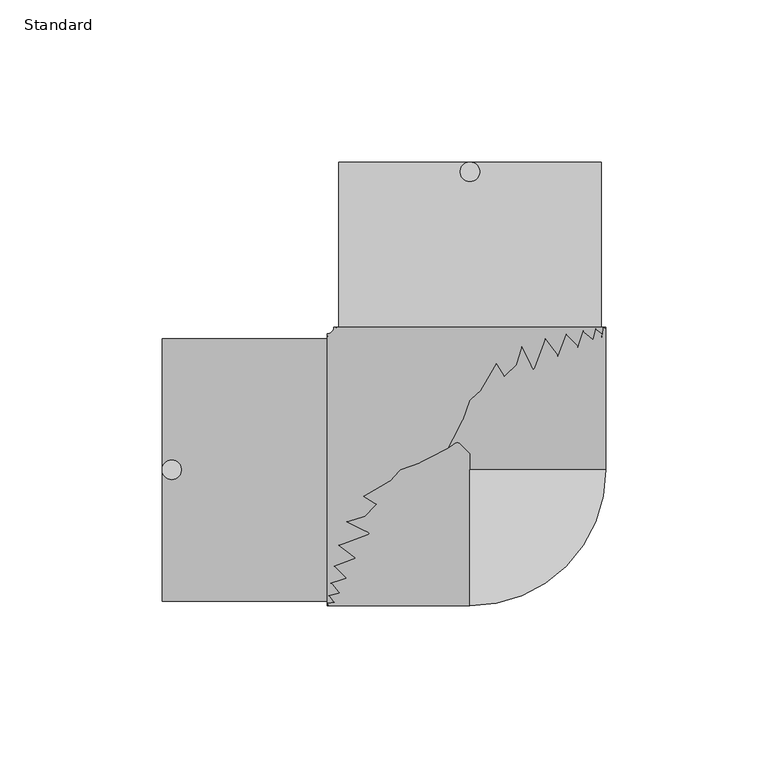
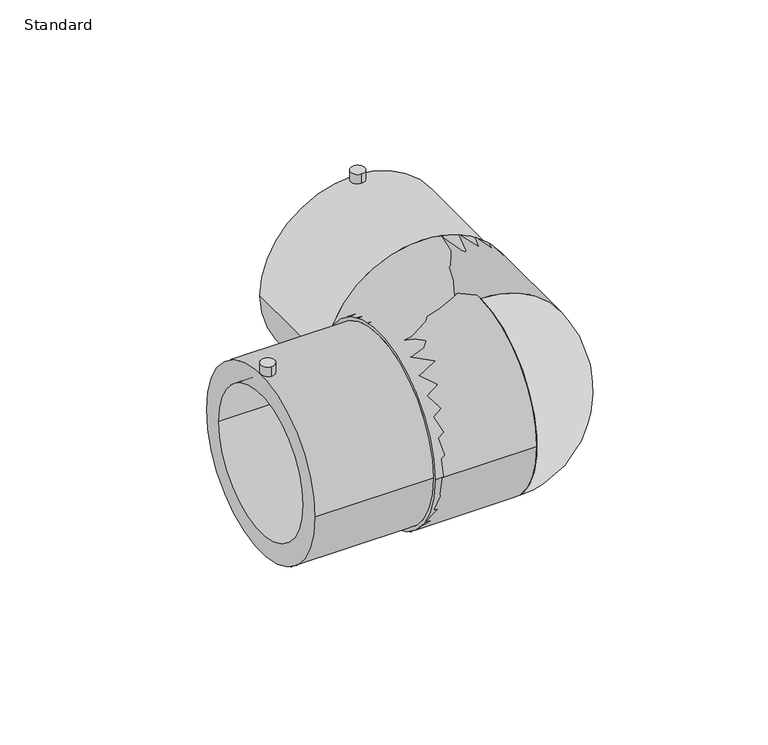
"""IFC4 building model written with IfcOpenShell, lengths in millimetres: pipe fitting geometry, EGB_VASEN_ PPR_Codo electrosoldable 90 WXRD200_Codo electrosoldable 45 WXRD220 : Standard."""

import ifcopenshell
import ifcopenshell.guid

model = None  # the IFC model being written
_history = None  # IfcOwnerHistory: only IFC2X3 demands one
_inside = {}  # id of a spatial element -> (the spatial element, [elements in it])
_under = {}  # id of a project, library or spatial element -> (it, [spatial elements below it])
_declared = {}  # id of a project -> (the project, [libraries it declares])
_typed = {}  # id of a type object -> (the type object, [elements of that type])
_made_of = {}  # id of a material, layer set ... -> (it, [elements and type objects made of it])


def new_model(schema):
    """Start an empty IFC model of exactly this schema.

    Asked for "IFC4X3", IfcOpenShell would pick the latest addendum, in which some entities
    have other attributes; the version numbers below select the first issue.
    IFC2X3 requires an IfcOwnerHistory on every rooted entity: one is made here for all.
    """
    global model, _history
    if schema == "IFC4X3":
        model = ifcopenshell.file(schema_version=(4, 3, 0, 0))
    else:
        model = ifcopenshell.file(schema=schema)
    _inside.clear()
    _under.clear()
    _declared.clear()
    _typed.clear()
    _made_of.clear()
    _history = None
    if model.schema == "IFC2X3":
        org = make("IfcOrganization", Name="unknown")
        user = make(
            "IfcPersonAndOrganization",
            ThePerson=make("IfcPerson", FamilyName="unknown"),
            TheOrganization=org,
        )
        app = make(
            "IfcApplication",
            ApplicationDeveloper=org,
            Version="unknown",
            ApplicationFullName="unknown",
            ApplicationIdentifier="unknown",
        )
        _history = make(
            "IfcOwnerHistory",
            OwningUser=user,
            OwningApplication=app,
            ChangeAction="ADDED",
            CreationDate=0,
        )
    return model


def make(cls, **values):
    """One entity of the class cls with the attributes given. An attribute that is None is left unset."""
    return model.create_entity(
        cls, **{name: value for name, value in values.items() if value is not None}
    )


def rooted(cls, **values):
    """An entity with a GlobalId (a new one), such as an element, a storey or a relation."""
    return make(cls, GlobalId=ifcopenshell.guid.new(), OwnerHistory=_history, **values)


def si_unit(unit_type, name, prefix=None):
    """IfcSIUnit, for example si_unit("LENGTHUNIT", "METRE", prefix="MILLI")."""
    return make("IfcSIUnit", UnitType=unit_type, Prefix=prefix, Name=name)


def assignment(units):
    """IfcUnitAssignment: the units of a project."""
    return None if units is None else make("IfcUnitAssignment", Units=units)


def point(xyz):
    """IfcCartesianPoint."""
    return None if xyz is None else make("IfcCartesianPoint", Coordinates=xyz)


def direction(xyz):
    """IfcDirection."""
    return None if xyz is None else make("IfcDirection", DirectionRatios=xyz)


def frame(location, z_axis=None, x_axis=None):
    """IfcAxis2Placement3D, a coordinate frame: its origin and axes. An axis left out is left unset."""
    return make(
        "IfcAxis2Placement3D",
        Location=point(location),
        Axis=direction(z_axis),
        RefDirection=direction(x_axis),
    )


def frame_2d(location, x_axis=None):
    """IfcAxis2Placement2D, a coordinate frame in the plane: its origin and x axis."""
    return make(
        "IfcAxis2Placement2D", Location=point(location), RefDirection=direction(x_axis)
    )


def origin():
    """The frame at (0, 0, 0) with its axes left unset."""
    return frame((0.0, 0.0, 0.0))


def origin_2d():
    """The frame at (0, 0) in the plane with its x axis left unset."""
    return frame_2d((0.0, 0.0))


def place(relative_to, where):
    """IfcLocalPlacement: puts the frame where relative to a parent placement (None: the world)."""
    return make(
        "IfcLocalPlacement", PlacementRelTo=relative_to, RelativePlacement=where
    )


def context(
    kind, dimensions, precision=None, world=None, true_north=None, identifier=None
):
    """IfcGeometricRepresentationContext, for example the 3D "Model" context."""
    return make(
        "IfcGeometricRepresentationContext",
        ContextIdentifier=identifier,
        ContextType=kind,
        CoordinateSpaceDimension=dimensions,
        Precision=precision,
        WorldCoordinateSystem=world,
        TrueNorth=true_north,
    )


def project(units=None, contexts=None):
    """IfcProject with its units and contexts."""
    return rooted(
        "IfcProject",
        Name="project",
        RepresentationContexts=contexts,
        UnitsInContext=assignment(units),
    )


def spatial(cls, under=None, at=None, **own):
    """A site, building, storey or space (cls), placed at a placement, below another one or the project."""
    s = rooted(cls, ObjectPlacement=at, **own)
    if under is not None:
        _under.setdefault(under.id(), (under, []))[1].append(s)
    return s


def polyline(points):
    """IfcPolyline through the points."""
    return make("IfcPolyline", Points=[point(p) for p in points])


def circle_curve(where, radius):
    """IfcCircle in the frame where."""
    return make("IfcCircle", Position=where, Radius=radius)


def ellipse_curve(where, semi_axis1, semi_axis2):
    """IfcEllipse in the frame where."""
    return make(
        "IfcEllipse", Position=where, SemiAxis1=semi_axis1, SemiAxis2=semi_axis2
    )


def trimmed(basis, trim1, trim2, sense, master):
    """IfcTrimmedCurve: the piece of a basis curve between two trims."""
    return make(
        "IfcTrimmedCurve",
        BasisCurve=basis,
        Trim1=trim1,
        Trim2=trim2,
        SenseAgreement=sense,
        MasterRepresentation=master,
    )


def segment(curve, same_sense, transition):
    """IfcCompositeCurveSegment."""
    return make(
        "IfcCompositeCurveSegment",
        Transition=transition,
        SameSense=same_sense,
        ParentCurve=curve,
    )


def composite_curve(segments, self_intersect=None):
    """IfcCompositeCurve: segments joined end to end."""
    return make("IfcCompositeCurve", Segments=segments, SelfIntersect=self_intersect)


def outline(outer, holes=None, kind="AREA"):
    """IfcArbitraryClosedProfileDef: a profile drawn as a closed curve; with holes, ...WithVoids."""
    if holes is None:
        return make("IfcArbitraryClosedProfileDef", ProfileType=kind, OuterCurve=outer)
    return make(
        "IfcArbitraryProfileDefWithVoids",
        ProfileType=kind,
        OuterCurve=outer,
        InnerCurves=holes,
    )


def extrude(swept, where, along, depth):
    """IfcExtrudedAreaSolid: the profile swept, set in the frame where, extruded along a direction by depth."""
    return make(
        "IfcExtrudedAreaSolid",
        SweptArea=swept,
        Position=where,
        ExtrudedDirection=direction(along),
        Depth=depth,
    )


def shape(context_of_items, identifier, shape_type, items):
    """IfcShapeRepresentation: the items that make up one representation, for example the "Body"."""
    return make(
        "IfcShapeRepresentation",
        ContextOfItems=context_of_items,
        RepresentationIdentifier=identifier,
        RepresentationType=shape_type,
        Items=items,
    )


def source(mapping_origin, context_of_items, identifier, shape_type, items):
    """IfcRepresentationMap: a shape defined once, which mapped items show again and again."""
    return make(
        "IfcRepresentationMap",
        MappingOrigin=mapping_origin,
        MappedRepresentation=shape(context_of_items, identifier, shape_type, items),
    )


def transform(
    local_origin,
    x_axis=None,
    y_axis=None,
    z_axis=None,
    scale=None,
    scale2=None,
    scale3=None,
    uniform=True,
):
    """IfcCartesianTransformationOperator3D, or its non-uniform kind. x_axis, y_axis, z_axis: its Axis1, 2, 3."""
    if uniform:
        return make(
            "IfcCartesianTransformationOperator3D",
            Axis1=direction(x_axis),
            Axis2=direction(y_axis),
            LocalOrigin=point(local_origin),
            Scale=scale,
            Axis3=direction(z_axis),
        )
    return make(
        "IfcCartesianTransformationOperator3DnonUniform",
        Axis1=direction(x_axis),
        Axis2=direction(y_axis),
        LocalOrigin=point(local_origin),
        Scale=scale,
        Axis3=direction(z_axis),
        Scale2=scale2,
        Scale3=scale3,
    )


def mapped(mapping_source, mapping_target):
    """IfcMappedItem: shows the shape of a source again, moved by a transform."""
    return make(
        "IfcMappedItem", MappingSource=mapping_source, MappingTarget=mapping_target
    )


def made_of(thing, what):
    """Note that an element or type object is made of a material, layer set ...; save() writes the relation."""
    if what is not None:
        _made_of.setdefault(what.id(), (what, []))[1].append(thing)
    return thing


def element(
    cls,
    number,
    at=None,
    inside=None,
    cuts=None,
    type_object=None,
    material=None,
    context=None,
    identifier="Body",
    shape_type=None,
    held_by="IfcProductDefinitionShape",
    body=None,
    shapes=None,
    **own,
):
    """One element of the class cls, such as IfcWall. Its Tag is "e" and its number.

    at: its placement. inside: the storey or other place that contains it. cuts: it is an
    opening in that element (IfcRelVoidsElement). A single representation is given by context,
    identifier, shape_type and body (its items); several are given by shapes. held_by: the class
    of the entity that holds the representations. save() writes the other relations.
    """
    e = rooted(cls, Tag="e%d" % number, ObjectPlacement=at, **own)
    if body is not None:
        shapes = [shape(context, identifier, shape_type, body)]
    if shapes is not None:
        e.Representation = make(held_by, Representations=shapes)
    if inside is not None:
        _inside.setdefault(inside.id(), (inside, []))[1].append(e)
    if cuts is not None:
        rooted(
            "IfcRelVoidsElement", RelatingBuildingElement=cuts, RelatedOpeningElement=e
        )
    if type_object is not None:
        _typed.setdefault(type_object.id(), (type_object, []))[1].append(e)
    return made_of(e, material)


def aggregate(whole, parts):
    """IfcRelAggregates: a whole, such as a stair, and the parts it consists of."""
    return rooted("IfcRelAggregates", RelatingObject=whole, RelatedObjects=parts)


def save(model, path):
    """Write the relations noted so far, then the file.

    IfcRelAggregates (storeys below a building ...), IfcRelContainedInSpatialStructure (elements
    in a storey), IfcRelDefinesByType, IfcRelAssociatesMaterial and IfcRelDeclares: one each for
    every whole, place, type object, material and project.
    """
    for whole, parts in _under.values():
        aggregate(whole, parts)
    for where, things in _inside.values():
        rooted(
            "IfcRelContainedInSpatialStructure",
            RelatedElements=things,
            RelatingStructure=where,
        )
    for kind, things in _typed.values():
        rooted("IfcRelDefinesByType", RelatedObjects=things, RelatingType=kind)
    for what, things in _made_of.values():
        rooted("IfcRelAssociatesMaterial", RelatedObjects=things, RelatingMaterial=what)
    for by, libraries in _declared.values():
        rooted("IfcRelDeclares", RelatingContext=by, RelatedDefinitions=libraries)
    model.write(path)


def plane_surface(at):
    """IfcPlane: the flat surface through the origin of the frame at, square to its z axis."""
    return make("IfcPlane", Position=at)


def cylinder_surface(at, radius):
    """IfcCylindricalSurface: all points at the distance radius from the z axis of the frame at."""
    return make("IfcCylindricalSurface", Position=at, Radius=radius)


def revolved_surface(curve, axis_point, axis_direction):
    """IfcSurfaceOfRevolution: the curve turned about the line through axis_point along axis_direction."""
    return make(
        "IfcSurfaceOfRevolution",
        SweptCurve=make("IfcArbitraryOpenProfileDef", ProfileType="CURVE", Curve=curve),
        AxisPosition=make("IfcAxis1Placement", Location=point(axis_point), Axis=direction(axis_direction)),
    )


def advanced_brep(points, edges, surfaces, faces):
    """IfcAdvancedBrep: a solid bounded by faces that lie on surfaces and meet in shared edges.

    An edge is (start, end): straight between two places in points (the first is 0);
    or (start, end, curve); or (start, end, curve, False) where it runs against its curve.
    A face is (place in surfaces, loops), or (place, loops, False) where it looks against
    its surface's normal. A loop lists edges by number (the first is 1), with a minus sign
    where the edge is run from its end to its start. The first loop is the outer one.
    """
    corners = [point(p) for p in points]
    vertices = [make("IfcVertexPoint", VertexGeometry=c) for c in corners]
    made = []
    for start, end, *more in edges:
        made.append(
            make(
                "IfcEdgeCurve",
                EdgeStart=vertices[start],
                EdgeEnd=vertices[end],
                EdgeGeometry=more[0] if more else make("IfcPolyline", Points=[corners[start], corners[end]]),
                SameSense=more[1] if len(more) > 1 else True,
            )
        )
    hull = []
    for where, loops, *sense in faces:
        bounds = []
        for j, loop in enumerate(loops):
            ring = [make("IfcOrientedEdge", EdgeElement=made[abs(k) - 1], Orientation=k > 0) for k in loop]
            bounds.append(
                make(
                    "IfcFaceOuterBound" if j == 0 else "IfcFaceBound",
                    Bound=make("IfcEdgeLoop", EdgeList=ring),
                    Orientation=True,
                )
            )
        hull.append(make("IfcAdvancedFace", Bounds=bounds, FaceSurface=surfaces[where], SameSense=sense[0] if sense else True))
    return make("IfcAdvancedBrep", Outer=make("IfcClosedShell", CfsFaces=hull))


def standard_32669ec8(model_context):
    return source(origin(), model_context, "Body", "SolidModel", [
        advanced_brep(
        [(0.0, 0.0, -42.0), (0.0, 0.0, 42.0)],
        [
            (0, 1, circle_curve(frame((0.0, 0.0, 0.0), z_axis=(-1.0, 0.0, 0.0), x_axis=(0.0, 1.0, 0.0)), 42.0)),
            (1, 0),
            (1, 0, circle_curve(frame((0.0, 0.0, 0.0), z_axis=(0.0, 1.0, 0.0), x_axis=(-1.0, 0.0, 0.0)), 42.0)),
        ],
        [
            plane_surface(frame((0.0, 0.0, 52.0431585), z_axis=(-1.0, 0.0, 0.0), x_axis=(0.0, -1.0, 0.0))),
            plane_surface(frame((0.0, 0.0, 52.0431585), z_axis=(0.0, 1.0, 0.0), x_axis=(1.0, 0.0, 0.0))),
            revolved_surface(trimmed(ellipse_curve(frame((0.0, 0.0, 0.0), z_axis=(1.0, 0.0, 0.0), x_axis=(0.0, 1.0, 0.0)), 42.0, 42.0), [point((0.0, 0.0, 42.0))], [point((0.0, 0.0, -42.0))], True, "CARTESIAN"), (0.0, 0.0, 52.0431585), (0.0, 0.0, -1.0)),
        ],
        [
            (0, [[1, 2]]),
            (1, [[3, -2]]),
            (2, [[-1, -3]]),
        ],
    ),
        advanced_brep(
        [(-95.0, -40.5, 0.0), (-95.0, 40.5, 0.0), (-95.0, -31.5, 0.0), (-95.0, 31.5, 0.0), (-44.0, -40.5, 0.0), (-44.0, 40.5, 0.0), (-44.0, -31.5, 0.0), (-44.0, 31.5, 0.0), (-44.0, -42.0, 0.0), (-44.0, 42.0, 0.0), (42.0, 44.0, 0.0), (-42.0, 44.0, 0.0), (40.5, 44.0, 0.0), (-40.5, 44.0, 0.0), (31.5, 44.0, 0.0), (-31.5, 44.0, 0.0), (40.5, 95.0, 0.0), (-40.5, 95.0, 0.0), (31.5, 95.0, 0.0), (-31.5, 95.0, 0.0)],
        [
            (0, 1, circle_curve(frame((-95.0, 0.0, 0.0), z_axis=(-1.0, 0.0, 0.0), x_axis=(0.0, 1.0, 0.0)), 40.5)),
            (1, 0, circle_curve(frame((-95.0, 0.0, 0.0), z_axis=(-1.0, 0.0, 0.0), x_axis=(0.0, 1.0, 0.0)), 40.5)),
            (2, 3, circle_curve(frame((-95.0, 0.0, 0.0), z_axis=(1.0, 0.0, 0.0), x_axis=(0.0, 1.0, 0.0)), 31.5)),
            (3, 2, circle_curve(frame((-95.0, 0.0, 0.0), z_axis=(1.0, 0.0, 0.0), x_axis=(0.0, 1.0, 0.0)), 31.5)),
            (0, 4),
            (4, 5, circle_curve(frame((-44.0, 0.0, 0.0), z_axis=(-1.0, 0.0, 0.0), x_axis=(0.0, 1.0, 0.0)), 40.5)),
            (5, 1),
            (5, 4, circle_curve(frame((-44.0, 0.0, 0.0), z_axis=(-1.0, 0.0, 0.0), x_axis=(0.0, 1.0, 0.0)), 40.5)),
            (2, 6),
            (6, 7, circle_curve(frame((-44.0, 0.0, 0.0), z_axis=(1.0, 0.0, 0.0), x_axis=(0.0, 1.0, 0.0)), 31.5)),
            (7, 3),
            (7, 6, circle_curve(frame((-44.0, 0.0, 0.0), z_axis=(1.0, 0.0, 0.0), x_axis=(0.0, 1.0, 0.0)), 31.5)),
            (8, 9, circle_curve(frame((-44.0, 0.0, 0.0), z_axis=(-1.0, 0.0, 0.0), x_axis=(0.0, 1.0, 0.0)), 42.0)),
            (9, 8, circle_curve(frame((-44.0, 0.0, 0.0), z_axis=(-1.0, 0.0, 0.0), x_axis=(0.0, 1.0, 0.0)), 42.0)),
            (10, 11, circle_curve(frame((0.0, 44.0, 0.0), z_axis=(0.0, 1.0, 0.0), x_axis=(-1.0, 0.0, 0.0)), 42.0)),
            (11, 10, circle_curve(frame((0.0, 44.0, 0.0), z_axis=(0.0, 1.0, 0.0), x_axis=(-1.0, 0.0, 0.0)), 42.0)),
            (12, 13, circle_curve(frame((0.0, 44.0, 0.0), z_axis=(0.0, -1.0, 0.0), x_axis=(-1.0, 0.0, 0.0)), 40.5)),
            (13, 12, circle_curve(frame((0.0, 44.0, 0.0), z_axis=(0.0, -1.0, 0.0), x_axis=(-1.0, 0.0, 0.0)), 40.5)),
            (14, 15, circle_curve(frame((0.0, 44.0, 0.0), z_axis=(0.0, 1.0, 0.0), x_axis=(-1.0, 0.0, 0.0)), 31.5)),
            (15, 14, circle_curve(frame((0.0, 44.0, 0.0), z_axis=(0.0, 1.0, 0.0), x_axis=(-1.0, 0.0, 0.0)), 31.5)),
            (8, 10, circle_curve(frame((-44.0, 44.0, 0.0), z_axis=(0.0, 0.0, 1.0), x_axis=(0.0, -1.0, 0.0)), 86.0)),
            (11, 9, circle_curve(frame((-44.0, 44.0, 0.0), z_axis=(0.0, 0.0, -1.0), x_axis=(0.0, -1.0, 0.0)), 2.0)),
            (16, 17, circle_curve(frame((0.0, 95.0, 0.0), z_axis=(0.0, 1.0, 0.0), x_axis=(-1.0, 0.0, 0.0)), 40.5)),
            (17, 16, circle_curve(frame((0.0, 95.0, 0.0), z_axis=(0.0, 1.0, 0.0), x_axis=(-1.0, 0.0, 0.0)), 40.5)),
            (18, 19, circle_curve(frame((0.0, 95.0, 0.0), z_axis=(0.0, -1.0, 0.0), x_axis=(-1.0, 0.0, 0.0)), 31.5)),
            (19, 18, circle_curve(frame((0.0, 95.0, 0.0), z_axis=(0.0, -1.0, 0.0), x_axis=(-1.0, 0.0, 0.0)), 31.5)),
            (17, 13),
            (12, 16),
            (19, 15),
            (14, 18),
        ],
        [
            plane_surface(frame((-95.0, 0.0, 0.0), z_axis=(-1.0, 0.0, 0.0), x_axis=(0.0, 0.0, 1.0))),
            cylinder_surface(frame((-95.0, 0.0, 0.0), z_axis=(-1.0, 0.0, 0.0), x_axis=(0.0, 1.0, 0.0)), 40.5),
            revolved_surface(polyline([(-44.0, 31.5, 0.0), (-95.0, 31.5, 0.0)]), (-95.0, 0.0, 0.0), (1.0, 0.0, 0.0)),
            plane_surface(frame((-44.0, 0.0, 0.0), z_axis=(-1.0, 0.0, 0.0), x_axis=(0.0, 0.0, 1.0))),
            plane_surface(frame((0.0, 44.0, 0.0), z_axis=(0.0, 1.0, 0.0), x_axis=(0.0, 0.0, 1.0))),
            revolved_surface(trimmed(ellipse_curve(frame((-44.0, 0.0, 0.0), z_axis=(-1.0, 0.0, 0.0), x_axis=(0.0, 1.0, 0.0)), 42.0, 42.0), [point((-44.0, -42.0, 0.0))], [point((-44.0, 42.0, 0.0))], True, "CARTESIAN"), (-44.0, 44.0, 0.0), (0.0, 0.0, 1.0)),
            revolved_surface(trimmed(ellipse_curve(frame((-44.0, 0.0, 0.0), z_axis=(-1.0, 0.0, 0.0), x_axis=(0.0, 1.0, 0.0)), 42.0, 42.0), [point((-44.0, 42.0, 0.0))], [point((-44.0, -42.0, 0.0))], True, "CARTESIAN"), (-44.0, 44.0, 0.0), (0.0, 0.0, 1.0)),
            plane_surface(frame((0.0, 95.0, 0.0), z_axis=(0.0, 1.0, 0.0), x_axis=(0.0, 0.0, 1.0))),
            cylinder_surface(frame((0.0, 44.0, 0.0), z_axis=(0.0, -1.0, 0.0), x_axis=(-1.0, 0.0, 0.0)), 40.5),
            revolved_surface(polyline([(-31.5, 95.0, 0.0), (-31.5, 44.0, 0.0)]), (0.0, 44.0, 0.0), (0.0, 1.0, 0.0)),
        ],
        [
            (0, [[1, 2], [3, 4]]),
            (1, [[-1, 5, 6, 7]]),
            (1, [[-2, -7, 8, -5]]),
            (2, [[-3, 9, 10, 11]]),
            (2, [[-4, -11, 12, -9]]),
            (3, [[-10, -12]]),
            (3, [[13, 14], [-6, -8]]),
            (4, [[15, 16], [17, 18]]),
            (4, [[19, 20]]),
            (5, [[-13, 21, -16, 22]]),
            (6, [[-14, -22, -15, -21]]),
            (7, [[23, 24], [25, 26]]),
            (8, [[-24, 27, -17, 28]]),
            (8, [[-23, -28, -18, -27]]),
            (9, [[-26, 29, -19, 30]]),
            (9, [[-25, -30, -20, -29]]),
        ],
    ),
        extrude(outline(composite_curve([segment(trimmed(circle_curve(frame_2d((0.0, 92.0)), 3.0), [point((0.0, 89.0))], [point((0.0, 95.0))], False, "CARTESIAN"), True, "CONTINUOUS"), segment(trimmed(circle_curve(frame_2d((0.0, 92.0)), 3.0), [point((0.0, 95.0))], [point((0.0, 89.0))], False, "CARTESIAN"), True, "CONTINUOUS")], self_intersect=False)), frame((0.0, 0.0, 32.5), z_axis=(0.0, 0.0, 1.0), x_axis=(1.0, 0.0, 0.0)), (0.0, 0.0, 1.0), 12.5),
        extrude(outline(composite_curve([segment(trimmed(circle_curve(frame_2d((-92.0, 0.0)), 3.0), [point((-92.0, -3.0))], [point((-92.0, 3.0))], False, "CARTESIAN"), True, "CONTINUOUS"), segment(trimmed(circle_curve(frame_2d((-92.0, 0.0)), 3.0), [point((-92.0, 3.0))], [point((-92.0, -3.0))], False, "CARTESIAN"), True, "CONTINUOUS")], self_intersect=False)), frame((0.0, 0.0, 32.5), z_axis=(0.0, 0.0, 1.0), x_axis=(1.0, 0.0, 0.0)), (0.0, 0.0, 1.0), 12.5),
        extrude(outline(composite_curve([segment(trimmed(circle_curve(origin_2d(), 42.0), [point((-42.0, 0.0))], [point((42.0, 0.0))], False, "CARTESIAN"), True, "CONTINUOUS"), segment(trimmed(circle_curve(origin_2d(), 42.0), [point((42.0, 0.0))], [point((-42.0, 0.0))], False, "CARTESIAN"), True, "CONTINUOUS")], self_intersect=False)), frame((-44.0, 0.0, 0.0), z_axis=(1.0, 0.0, 0.0), x_axis=(0.0, 1.0, 0.0)), (0.0, 0.0, 1.0), 44.0),
        extrude(outline(composite_curve([segment(trimmed(circle_curve(origin_2d(), 42.0), [point((0.0, -42.0))], [point((0.0, 42.0))], False, "CARTESIAN"), True, "CONTINUOUS"), segment(trimmed(circle_curve(origin_2d(), 42.0), [point((0.0, 42.0))], [point((0.0, -42.0))], False, "CARTESIAN"), True, "CONTINUOUS")], self_intersect=False)), frame((0.0, 0.0, 0.0), z_axis=(0.0, 1.0, 0.0), x_axis=(0.0, 0.0, 1.0)), (0.0, 0.0, 1.0), 44.0),
    ])


if __name__ == "__main__":
    model = new_model("IFC4")
    model_context = context("Model", 3, world=origin())
    ifc_project = project(units=[si_unit("LENGTHUNIT", "METRE", prefix="MILLI")], contexts=[model_context])
    site = spatial("IfcSite", under=ifc_project)
    building = spatial("IfcBuilding", under=site)
    placement = place(None, origin())
    standard_shape = standard_32669ec8(model_context)
    element("IfcPipeFitting", 1, ObjectType="EGB_VASEN_ PPR_Codo electrosoldable 90 WXRD200_Codo electrosoldable 45 WXRD220 : Standard", at=placement, inside=building, context=model_context, shape_type="MappedRepresentation", body=[
        mapped(standard_shape, transform((0.0, 0.0, 0.0), x_axis=(1.0, 0.0, 0.0), y_axis=(0.0, 1.0, 0.0), z_axis=(0.0, 0.0, 1.0))),
    ])
    save(model, "model.ifc")
